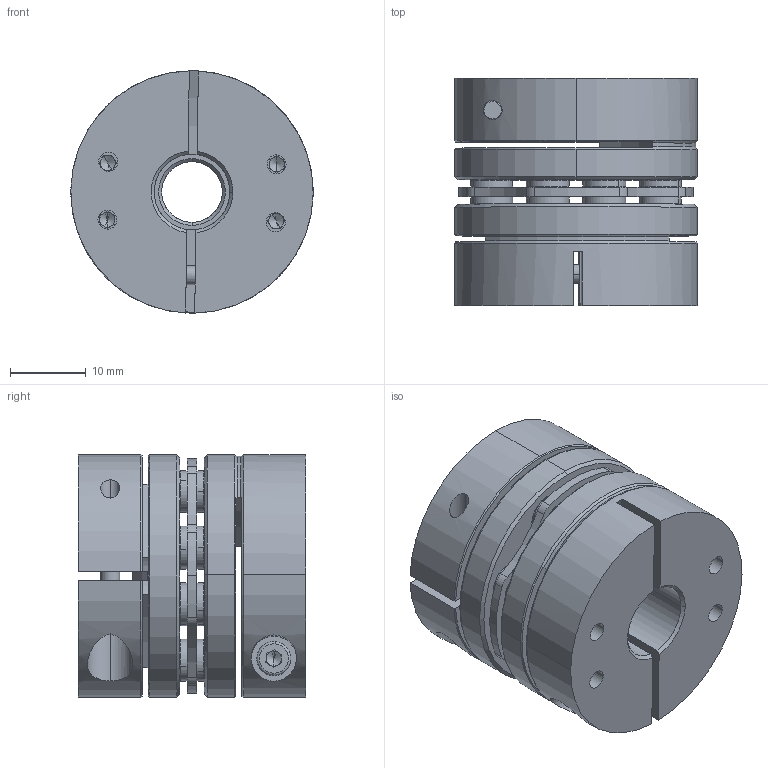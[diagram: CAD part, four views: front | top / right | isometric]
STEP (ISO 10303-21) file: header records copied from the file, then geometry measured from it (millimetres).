
FILE_DESCRIPTION (( 'STEP AP203' ), '1' );
FILE_NAME ('LDG-32-B1-8-10.STEP', '2021-10-28T05:12:06', ( '' ), ( '' ), 'SwSTEP 2.0', 'SolidWorks 2018', '' );
FILE_SCHEMA (( 'CONFIG_CONTROL_DESIGN' ));
Length unit declared in the file: millimetre
Products named in the file (2): LDG-32-B1-8-10; 錨璃5^LDG-32蚾饜芞1
Assembly tree (1 placements, depth 2):
  LDG-32-B1-8-10
    錨璃5^LDG-32蚾饜芞1
Bounding box: 32 x 30 x 32 mm (x, y, z)
Volume: 18169.2 mm3; surface area: 13267.1 mm2
Topology: 1 solids, 11 shells, 795 faces, 1967 edges, 1216 vertices
Faces by surface type: cylinder 301, plane 244, cone 230, torus 20
Entity records: 24191 total; most frequent: CARTESIAN_POINT 4472, DIRECTION 4465, ORIENTED_EDGE 3878, EDGE_CURVE 1939, AXIS2_PLACEMENT_3D 1819, VERTEX_POINT 1216, CIRCLE 1020, EDGE_LOOP 939
